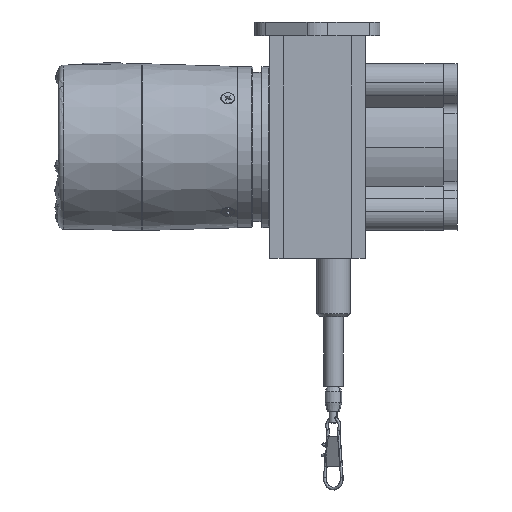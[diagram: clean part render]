
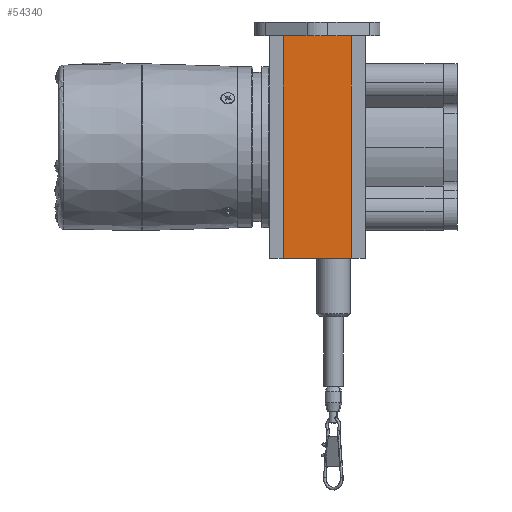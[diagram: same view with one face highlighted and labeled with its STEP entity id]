
A CAD part, front view. The second image highlights one B-rep face of the part: STEP entity #54340.
In plain terms, the highlighted planar face has unit normal (0, -1, 0).
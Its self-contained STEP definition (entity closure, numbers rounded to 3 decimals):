
#23776 = DIRECTION ( 'NONE',  ( 0., 1., 0. ) ) ;
#23891 = CARTESIAN_POINT ( 'NONE',  ( -24.5, -40., -40. ) ) ;
#23892 = AXIS2_PLACEMENT_3D ( 'NONE', #23891, #23776, #23965 ) ;
#23893 = PLANE ( 'NONE',  #23892 ) ;
#23906 = FACE_OUTER_BOUND ( 'NONE', #54344, .T. ) ;
#23965 = DIRECTION ( 'NONE',  ( 0., 0., 1. ) ) ;
#24528 = DIRECTION ( 'NONE',  ( -1., 0., 0. ) ) ;
#24529 = VECTOR ( 'NONE', #24528, 1000. ) ;
#24530 = CARTESIAN_POINT ( 'NONE',  ( -24.5, -40., -40. ) ) ;
#24531 = LINE ( 'NONE', #24530, #24529 ) ;
#24600 = CARTESIAN_POINT ( 'NONE',  ( 0., -40., -40. ) ) ;
#24603 = CARTESIAN_POINT ( 'NONE',  ( -24.5, -40., -40. ) ) ;
#24760 = DIRECTION ( 'NONE',  ( 0., 0., -1. ) ) ;
#24761 = VECTOR ( 'NONE', #24760, 1000. ) ;
#24762 = CARTESIAN_POINT ( 'NONE',  ( 0., -40., -40. ) ) ;
#24763 = LINE ( 'NONE', #24762, #24761 ) ;
#24986 = DIRECTION ( 'NONE',  ( 1., 0., 0. ) ) ;
#24987 = VECTOR ( 'NONE', #24986, 1000. ) ;
#24988 = CARTESIAN_POINT ( 'NONE',  ( -24.5, -40., 40. ) ) ;
#24989 = LINE ( 'NONE', #24988, #24987 ) ;
#26505 = CARTESIAN_POINT ( 'NONE',  ( -24.5, -40., 40. ) ) ;
#26507 = DIRECTION ( 'NONE',  ( 0., 0., 1. ) ) ;
#26508 = VECTOR ( 'NONE', #26507, 1000. ) ;
#26509 = CARTESIAN_POINT ( 'NONE',  ( -24.5, -40., -40. ) ) ;
#26514 = LINE ( 'NONE', #26509, #26508 ) ;
#26517 = CARTESIAN_POINT ( 'NONE',  ( 0., -40., 40. ) ) ;
#54331 = ORIENTED_EDGE ( 'NONE', *, *, #54479, .F. ) ;
#54340 = ADVANCED_FACE ( 'NONE', ( #23906 ), #23893, .F. ) ;
#54344 = EDGE_LOOP ( 'NONE', ( #54364, #54348, #54331, #54357 ) ) ;
#54348 = ORIENTED_EDGE ( 'NONE', *, *, #54555, .F. ) ;
#54357 = ORIENTED_EDGE ( 'NONE', *, *, #54524, .F. ) ;
#54364 = ORIENTED_EDGE ( 'NONE', *, *, #54550, .F. ) ;
#54479 = EDGE_CURVE ( 'NONE', #54484, #54485, #24531, .T. ) ;
#54484 = VERTEX_POINT ( 'NONE', #24600 ) ;
#54485 = VERTEX_POINT ( 'NONE', #24603 ) ;
#54524 = EDGE_CURVE ( 'NONE', #54551, #54484, #24763, .T. ) ;
#54550 = EDGE_CURVE ( 'NONE', #54556, #54551, #24989, .T. ) ;
#54551 = VERTEX_POINT ( 'NONE', #26517 ) ;
#54555 = EDGE_CURVE ( 'NONE', #54485, #54556, #26514, .T. ) ;
#54556 = VERTEX_POINT ( 'NONE', #26505 ) ;
